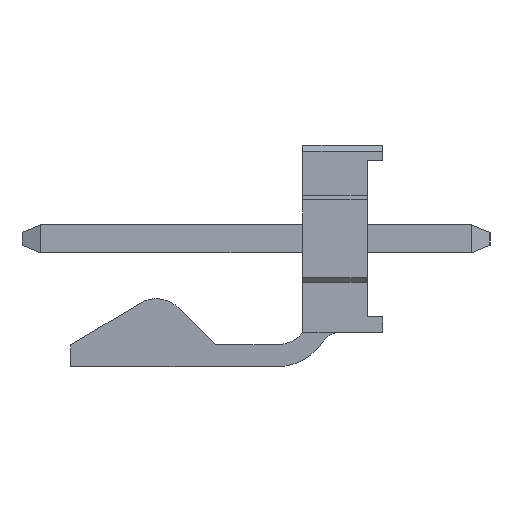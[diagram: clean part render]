
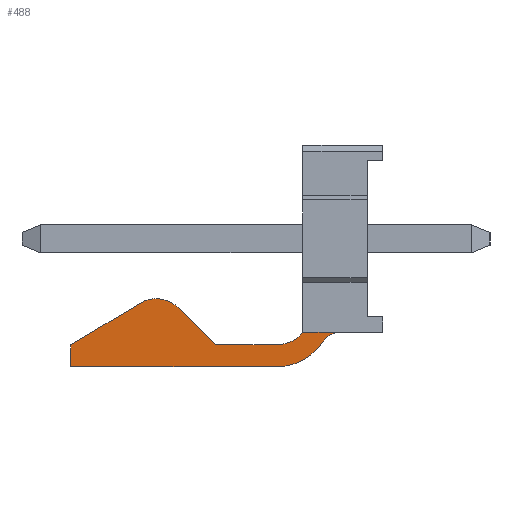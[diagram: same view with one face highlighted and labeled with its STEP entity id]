
A CAD part, left-side view. The second image highlights one B-rep face of the part: STEP entity #488.
In plain terms, the highlighted planar face has unit normal (-0.999, 0.039, 0).
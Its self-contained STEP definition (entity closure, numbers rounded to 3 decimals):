
#488=ADVANCED_FACE('',(#1464),#1465,.F.);
#1464=FACE_OUTER_BOUND('',#2536,.T.);
#1465=PLANE('',#2537);
#2536=EDGE_LOOP('',(#6284,#6285,#6286,#6287,#6288,#6289,#6290,#6291,#6292,#6293,#6294));
#2537=AXIS2_PLACEMENT_3D('',#6295,#6296,#6297);
#6284=ORIENTED_EDGE('',*,*,#8285,.F.);
#6285=ORIENTED_EDGE('',*,*,#7501,.F.);
#6286=ORIENTED_EDGE('',*,*,#8300,.F.);
#6287=ORIENTED_EDGE('',*,*,#8298,.F.);
#6288=ORIENTED_EDGE('',*,*,#8296,.F.);
#6289=ORIENTED_EDGE('',*,*,#7137,.F.);
#6290=ORIENTED_EDGE('',*,*,#8295,.F.);
#6291=ORIENTED_EDGE('',*,*,#8293,.F.);
#6292=ORIENTED_EDGE('',*,*,#8291,.F.);
#6293=ORIENTED_EDGE('',*,*,#8289,.F.);
#6294=ORIENTED_EDGE('',*,*,#8287,.F.);
#6295=CARTESIAN_POINT('',(-14.999,1.626,25.816));
#6296=DIRECTION('',(0.999,-0.039,0.0));
#6297=DIRECTION('',(0.0,0.0,-1.0));
#7137=EDGE_CURVE('',#8613,#8609,#8615,.T.);
#7501=EDGE_CURVE('',#9291,#9293,#9294,.T.);
#8285=EDGE_CURVE('',#9293,#10508,#10509,.T.);
#8287=EDGE_CURVE('',#10508,#10511,#10512,.T.);
#8289=EDGE_CURVE('',#10511,#10514,#10515,.T.);
#8291=EDGE_CURVE('',#10514,#10517,#10518,.T.);
#8293=EDGE_CURVE('',#10517,#10520,#10521,.T.);
#8295=EDGE_CURVE('',#10520,#8613,#10523,.T.);
#8296=EDGE_CURVE('',#8609,#10524,#10525,.T.);
#8298=EDGE_CURVE('',#10524,#10527,#10528,.T.);
#8300=EDGE_CURVE('',#10527,#9291,#10530,.T.);
#8609=VERTEX_POINT('',#10999);
#8613=VERTEX_POINT('',#11010);
#8615=B_SPLINE_CURVE_WITH_KNOTS('',3,(#11013,#11014,#11015,#11016,#11017,#11018,#11019),.UNSPECIFIED.,.F.,.F.,(4,1,1,1,4),(0.0,0.25,0.5,0.75,1.0),.UNSPECIFIED.);
#9291=VERTEX_POINT('',#12071);
#9293=VERTEX_POINT('',#12074);
#9294=B_SPLINE_CURVE_WITH_KNOTS('',3,(#12075,#12076,#12077,#12078,#12079),.UNSPECIFIED.,.F.,.F.,(4,1,4),(0.0,0.5,1.0),.UNSPECIFIED.);
#10508=VERTEX_POINT('',#14076);
#10509=LINE('',#14077,#14078);
#10511=VERTEX_POINT('',#14081);
#10512=B_SPLINE_CURVE_WITH_KNOTS('',3,(#14082,#14083,#14084,#14085,#14086),.UNSPECIFIED.,.F.,.F.,(4,1,4),(0.0,0.5,1.0),.UNSPECIFIED.);
#10514=VERTEX_POINT('',#14089);
#10515=B_SPLINE_CURVE_WITH_KNOTS('',3,(#14090,#14091,#14092,#14093,#14094),.UNSPECIFIED.,.F.,.F.,(4,1,4),(0.0,0.5,1.0),.UNSPECIFIED.);
#10517=VERTEX_POINT('',#14097);
#10518=LINE('',#14098,#14099);
#10520=VERTEX_POINT('',#14102);
#10521=LINE('',#14103,#14104);
#10523=LINE('',#14107,#14108);
#10524=VERTEX_POINT('',#14109);
#10525=B_SPLINE_CURVE_WITH_KNOTS('',3,(#14110,#14111,#14112,#14113,#14114,#14115,#14116),.UNSPECIFIED.,.F.,.F.,(4,1,1,1,4),(0.0,0.25,0.5,0.75,1.0),.UNSPECIFIED.);
#10527=VERTEX_POINT('',#14119);
#10528=LINE('',#14120,#14121);
#10530=LINE('',#14124,#14125);
#10999=CARTESIAN_POINT('',(-14.767,7.587,-2.438));
#11010=CARTESIAN_POINT('',(-14.742,8.24,-2.619));
#11013=CARTESIAN_POINT('',(-14.742,8.24,-2.619));
#11014=CARTESIAN_POINT('',(-14.747,8.099,-2.534));
#11015=CARTESIAN_POINT('',(-14.758,7.824,-2.439));
#11016=CARTESIAN_POINT('',(-14.773,7.429,-2.428));
#11017=CARTESIAN_POINT('',(-14.788,7.049,-2.535));
#11018=CARTESIAN_POINT('',(-14.797,6.806,-2.694));
#11019=CARTESIAN_POINT('',(-14.802,6.689,-2.81));
#12071=CARTESIAN_POINT('',(-14.957,2.703,-4.318));
#12074=CARTESIAN_POINT('',(-14.999,1.626,-3.81));
#12075=CARTESIAN_POINT('',(-14.957,2.703,-4.318));
#12076=CARTESIAN_POINT('',(-14.965,2.484,-4.318));
#12077=CARTESIAN_POINT('',(-14.981,2.091,-4.221));
#12078=CARTESIAN_POINT('',(-14.993,1.765,-3.979));
#12079=CARTESIAN_POINT('',(-14.999,1.626,-3.81));
#14076=CARTESIAN_POINT('',(-15.056,0.141,-3.81));
#14077=CARTESIAN_POINT('',(-14.999,1.626,-3.81));
#14078=VECTOR('',#15996,1.486);
#14081=CARTESIAN_POINT('',(-15.031,0.782,-4.159));
#14082=CARTESIAN_POINT('',(-15.056,0.141,-3.81));
#14083=CARTESIAN_POINT('',(-15.051,0.28,-3.81));
#14084=CARTESIAN_POINT('',(-15.042,0.519,-3.88));
#14085=CARTESIAN_POINT('',(-15.034,0.707,-4.043));
#14086=CARTESIAN_POINT('',(-15.031,0.782,-4.159));
#14089=CARTESIAN_POINT('',(-14.957,2.703,-5.207));
#14090=CARTESIAN_POINT('',(-15.031,0.782,-4.159));
#14091=CARTESIAN_POINT('',(-15.023,1.007,-4.509));
#14092=CARTESIAN_POINT('',(-15.001,1.571,-4.998));
#14093=CARTESIAN_POINT('',(-14.973,2.288,-5.207));
#14094=CARTESIAN_POINT('',(-14.957,2.703,-5.207));
#14097=CARTESIAN_POINT('',(-14.632,11.074,-5.207));
#14098=CARTESIAN_POINT('',(-14.957,2.703,-5.207));
#14099=VECTOR('',#16000,8.377);
#14102=CARTESIAN_POINT('',(-14.632,11.074,-4.318));
#14103=CARTESIAN_POINT('',(-14.632,11.074,-5.207));
#14104=VECTOR('',#16002,0.889);
#14107=CARTESIAN_POINT('',(-14.632,11.074,-4.318));
#14108=VECTOR('',#16004,3.306);
#14109=CARTESIAN_POINT('',(-14.802,6.689,-2.81));
#14110=CARTESIAN_POINT('',(-14.742,8.24,-2.619));
#14111=CARTESIAN_POINT('',(-14.747,8.099,-2.534));
#14112=CARTESIAN_POINT('',(-14.758,7.824,-2.439));
#14113=CARTESIAN_POINT('',(-14.773,7.429,-2.428));
#14114=CARTESIAN_POINT('',(-14.788,7.049,-2.535));
#14115=CARTESIAN_POINT('',(-14.797,6.806,-2.694));
#14116=CARTESIAN_POINT('',(-14.802,6.689,-2.81));
#14119=CARTESIAN_POINT('',(-14.861,5.182,-4.318));
#14120=CARTESIAN_POINT('',(-14.802,6.689,-2.81));
#14121=VECTOR('',#16006,2.133);
#14124=CARTESIAN_POINT('',(-14.861,5.182,-4.318));
#14125=VECTOR('',#16008,2.48);
#15996=DIRECTION('',(-0.039,-0.999,0.0));
#16000=DIRECTION('',(0.039,0.999,0.0));
#16002=DIRECTION('',(0.0,0.0,1.0));
#16004=DIRECTION('',(-0.033,-0.857,0.514));
#16006=DIRECTION('',(-0.027,-0.707,-0.707));
#16008=DIRECTION('',(-0.039,-0.999,0.0));
